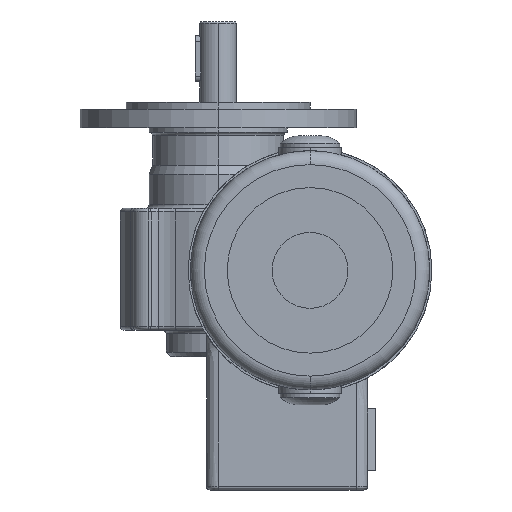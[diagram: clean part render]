
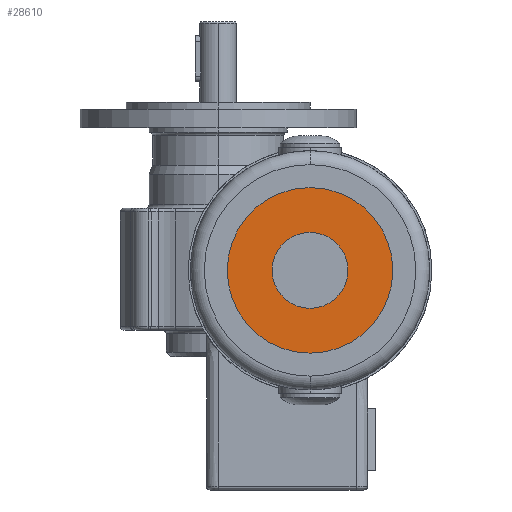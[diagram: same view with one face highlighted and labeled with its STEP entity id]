
A CAD part, left-side view. The second image highlights one B-rep face of the part: STEP entity #28610.
In plain terms, the highlighted planar face has unit normal (-1, 0, 0) as drawn and (1, 0, 0) by its records, which use the part's own axes.
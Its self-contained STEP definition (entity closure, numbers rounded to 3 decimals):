
#28130=CARTESIAN_POINT('',(30.,437.,-183.6));
#28140=VERTEX_POINT('',#28130);
#28220=CARTESIAN_POINT('',(30.,437.,-111.6));
#28230=VERTEX_POINT('',#28220);
#28260=CARTESIAN_POINT('',(30.,437.,-147.6));
#28270=DIRECTION('',(1.,0.,0.));
#28280=DIRECTION('',(0.,0.,-1.));
#28290=AXIS2_PLACEMENT_3D('',#28260,#28270,#28280);
#28300=CIRCLE('',#28290,36.);
#28310=EDGE_CURVE('',#28230,#28140,#28300,.T.);
#28360=CARTESIAN_POINT('',(30.,431.457,-161.448));
#28370=DIRECTION('',(1.,0.,0.));
#28380=DIRECTION('',(0.,0.,-1.));
#28390=AXIS2_PLACEMENT_3D('',#28360,#28370,#28380);
#28400=PLANE('',#28390);
#28410=EDGE_CURVE('',#28140,#28230,#28300,.T.);
#28420=ORIENTED_EDGE('',*,*,#28410,.T.);
#28430=ORIENTED_EDGE('',*,*,#28310,.T.);
#28440=EDGE_LOOP('',(#28430,#28420));
#28450=FACE_OUTER_BOUND('',#28440,.T.);
#28460=CARTESIAN_POINT('',(30.,437.,-147.6));
#28470=DIRECTION('',(1.,0.,0.));
#28480=DIRECTION('',(0.,0.,-1.));
#28490=AXIS2_PLACEMENT_3D('',#28460,#28470,#28480);
#28500=CIRCLE('',#28490,16.5);
#28510=CARTESIAN_POINT('',(30.,437.,-164.1));
#28520=VERTEX_POINT('',#28510);
#28530=CARTESIAN_POINT('',(30.,437.,-131.1));
#28540=VERTEX_POINT('',#28530);
#28550=EDGE_CURVE('',#28520,#28540,#28500,.T.);
#28560=ORIENTED_EDGE('',*,*,#28550,.F.);
#28570=EDGE_CURVE('',#28540,#28520,#28500,.T.);
#28580=ORIENTED_EDGE('',*,*,#28570,.F.);
#28590=EDGE_LOOP('',(#28580,#28560));
#28600=FACE_BOUND('',#28590,.T.);
#28610=ADVANCED_FACE('',(#28450,#28600),#28400,.T.);
